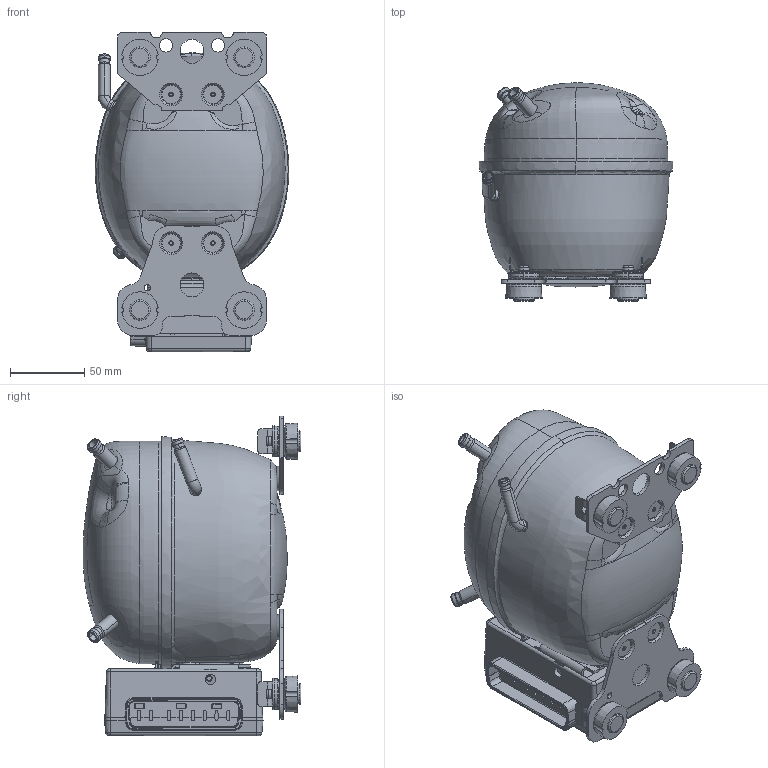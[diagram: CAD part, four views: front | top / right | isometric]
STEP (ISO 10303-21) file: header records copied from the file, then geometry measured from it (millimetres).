
FILE_DESCRIPTION((''),'2;1');
FILE_NAME('BD35F-101Z0200ANDBD50F-101Z1220_ASM','2015-01-19T',('u248262'),(''),'PRO/ENGINEER BY PARAMETRIC TECHNOLOGY CORPORATION, 2012200','PRO/ENGINEER BY PARAMETRIC TECHNOLOGY CORPORATION, 2012200','');
FILE_SCHEMA(('CONFIG_CONTROL_DESIGN'));
Products named in the file (42): MSBR-38; MSBR-37; MSBR-36; MSBR-35; MSBR-34; MSBR-33; MSBR-32; MSBR-31; MSBR-30; MSBR-29; MSBR-28; MSBR-27; MSBR-26; MSBR-25; MSBR-24; MSBR-23; MSBR-22; MSBR-21; MSBR-20; MSBR-19; MSBR-18; MSBR-17; MSBR-16; MSBR-15; MSBR-14; MSBR-13; MSBR-12; MSBR-11; MSBR-10; MSBR-9; MSBR-8; MSBR-7; MSBR-6; MSBR-5; MSBR-4; MSBR-3; MSBR-2; MSBR-1; 105B4085; 105B4086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
Assembly tree (41 placements, depth 3):
  BD35F-101Z0200ANDBD50F-101Z1220_ASM
    MSBR-38
    MSBR-37
    MSBR-36
    MSBR-35
    MSBR-34
    MSBR-33
    MSBR-32
    MSBR-31
    MSBR-30
    MSBR-29
    MSBR-28
    MSBR-27
    MSBR-26
    MSBR-25
    MSBR-24
    MSBR-23
    MSBR-22
    MSBR-21
    MSBR-20
    MSBR-19
    MSBR-18
    MSBR-17
    MSBR-16
    MSBR-15
    MSBR-14
    MSBR-13
    MSBR-12
    MSBR-11
    MSBR-10
    MSBR-9
    MSBR-8
    MSBR-7
    MSBR-6
    MSBR-5
    MSBR-4
    MSBR-3
    MSBR-2
    MSBR-1
    NEW_ELECTRONICS_ASM
      105B4085
      105B4086
Bounding box: 130.31 x 146.54 x 215.16 mm (x, y, z)
Volume: 348433.6 mm3; surface area: 282998.5 mm2
Topology: 40 solids, 40 shells, 4137 faces, 10766 edges, 6841 vertices
Faces by surface type: plane 2263, cylinder 690, bspline 671, cone 256, torus 186, sphere 43, extrusion 16, revolution 12
Entity records: 216342 total; most frequent: CARTESIAN_POINT 119019, ORIENTED_EDGE 21464, DIRECTION 17736, EDGE_CURVE 10732, VERTEX_POINT 6840, VECTOR 6830, LINE 6814, AXIS2_PLACEMENT_3D 5447
